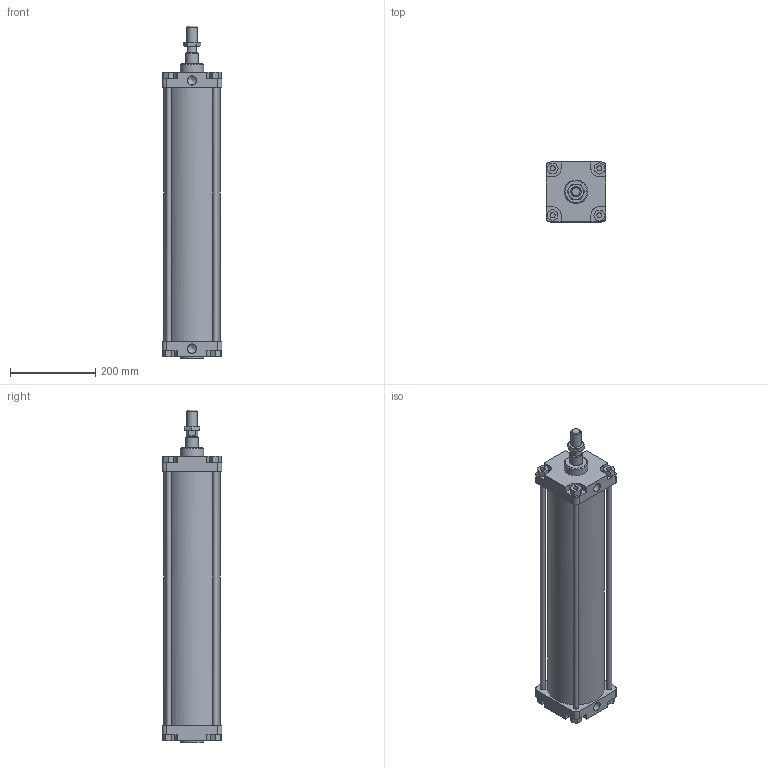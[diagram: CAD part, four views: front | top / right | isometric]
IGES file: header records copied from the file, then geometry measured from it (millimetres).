
Global section: file name: 1304_125_0500_01A; native system: Autodesk Inventor 2014; preprocessor: unknown; author: A. Manieri; date: 20161124.142510; units: millimetre
Bounding box: 140 x 140 x 780 mm (x, y, z)
Volume: 4167161.8 mm3; surface area: 848201.2 mm2
Topology: 9 solids, 9 shells, 175 faces, 440 edges, 295 vertices
Faces by surface type: bspline 175
